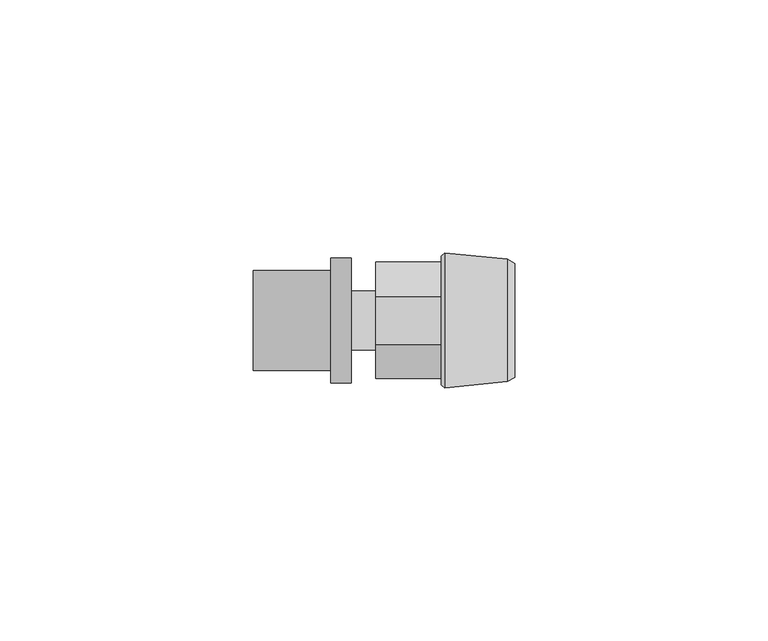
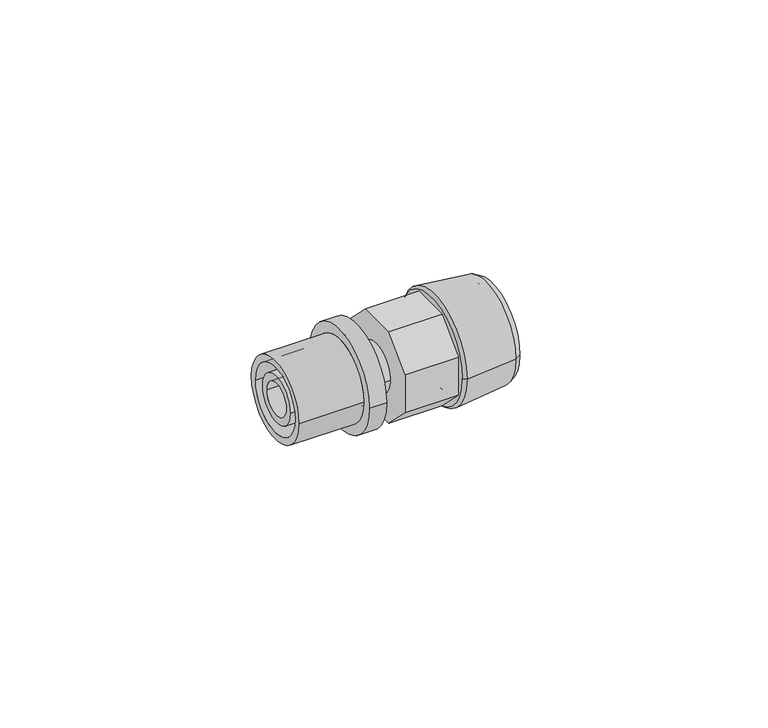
"""IFC4 building model written with IfcOpenShell, lengths in millimetres: pipe fitting geometry, FASTLOC_Adapter_RX+, with external thread : FSL A C external EX+ AT."""

from ifc_helpers import new_model, si_unit, frame, origin, place, context, project, spatial, polyline, circle_curve, outline, extrude, source, transform, mapped, element, save
from ifc_brep_helpers import plane_surface, cylinder_surface, revolved_surface, advanced_brep


def pipe_fitting_9284d0bf(model_context):
    return source(origin(), model_context, "Body", "SolidModel", [
        advanced_brep(
        [(-8.9, -12.35, 0.0), (-8.9, 12.35, 0.0), (-4.9, 12.35, 0.0), (-4.9, -12.35, 0.0), (-24.2, -9.85, 0.0), (-24.2, 9.85, 0.0), (-8.9, 9.85, 0.0), (-8.9, -9.85, 0.0), (-4.9, -8.15, 0.0), (-4.9, 8.15, 0.0), (-24.2, 8.15, 0.0), (-24.2, -8.15, 0.0)],
        [
            (0, 1, circle_curve(frame((-8.9, 0.0, 0.0), z_axis=(1.0, 0.0, 0.0), x_axis=(0.0, 1.0, 0.0)), 12.35)),
            (1, 2),
            (2, 3, circle_curve(frame((-4.9, 0.0, 0.0), z_axis=(-1.0, 0.0, 0.0), x_axis=(0.0, 1.0, 0.0)), 12.35)),
            (3, 0),
            (4, 5, circle_curve(frame((-24.2, 0.0, 0.0), z_axis=(1.0, 0.0, 0.0), x_axis=(0.0, 1.0, 0.0)), 9.85)),
            (5, 6),
            (6, 7, circle_curve(frame((-8.9, 0.0, 0.0), z_axis=(-1.0, 0.0, 0.0), x_axis=(0.0, 1.0, 0.0)), 9.85)),
            (7, 4),
            (8, 9, circle_curve(frame((-4.9, 0.0, 0.0), z_axis=(1.0, 0.0, 0.0), x_axis=(0.0, 1.0, 0.0)), 8.15)),
            (9, 10),
            (10, 11, circle_curve(frame((-24.2, 0.0, 0.0), z_axis=(-1.0, 0.0, 0.0), x_axis=(0.0, 1.0, 0.0)), 8.15)),
            (11, 8),
            (1, 0, circle_curve(frame((-8.9, 0.0, 0.0), z_axis=(1.0, 0.0, 0.0), x_axis=(0.0, -1.0, 0.0)), 12.35)),
            (3, 2, circle_curve(frame((-4.9, 0.0, 0.0), z_axis=(-1.0, 0.0, 0.0), x_axis=(0.0, -1.0, 0.0)), 12.35)),
            (6, 7, circle_curve(frame((-8.9, 0.0, 0.0), z_axis=(1.0, 0.0, 0.0), x_axis=(0.0, -1.0, 0.0)), 9.85)),
            (5, 4, circle_curve(frame((-24.2, 0.0, 0.0), z_axis=(1.0, 0.0, 0.0), x_axis=(0.0, -1.0, 0.0)), 9.85)),
            (10, 11, circle_curve(frame((-24.2, 0.0, 0.0), z_axis=(1.0, 0.0, 0.0), x_axis=(0.0, -1.0, 0.0)), 8.15)),
            (9, 8, circle_curve(frame((-4.9, 0.0, 0.0), z_axis=(1.0, 0.0, 0.0), x_axis=(0.0, -1.0, 0.0)), 8.15)),
        ],
        [
            cylinder_surface(frame((-4.9, 0.0, 0.0), z_axis=(-1.0, 0.0, 0.0), x_axis=(0.0, 1.0, 0.0)), 12.35),
            cylinder_surface(frame((-4.9, 0.0, 0.0), z_axis=(-1.0, 0.0, 0.0), x_axis=(0.0, 1.0, 0.0)), 9.85),
            revolved_surface(polyline([(-24.199999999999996, 8.15, 0.0), (-4.9, 8.15, 0.0)]), (-4.9, 0.0, 0.0), (-1.0, 0.0, 0.0)),
            cylinder_surface(frame((-4.9, 0.0, 0.0), z_axis=(-1.0, 0.0, 0.0), x_axis=(0.0, -1.0, 0.0)), 12.35),
            plane_surface(frame((-8.9, 0.0, 0.0), z_axis=(-1.0, 0.0, 0.0), x_axis=(0.0, -1.0, 0.0))),
            cylinder_surface(frame((-4.9, 0.0, 0.0), z_axis=(-1.0, 0.0, 0.0), x_axis=(0.0, -1.0, 0.0)), 9.85),
            plane_surface(frame((-24.2, 0.0, 0.0), z_axis=(-1.0, 0.0, 0.0), x_axis=(0.0, -1.0, 0.0))),
            revolved_surface(polyline([(-24.199999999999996, -8.15, 0.0), (-4.9, -8.15, 0.0)]), (-4.9, 0.0, 0.0), (-1.0, 0.0, 0.0)),
            plane_surface(frame((-4.9, 0.0, 0.0), z_axis=(1.0, 0.0, 0.0), x_axis=(0.0, -1.0, 0.0))),
        ],
        [
            (0, [[1, 2, 3, 4]]),
            (1, [[5, 6, 7, 8]]),
            (2, [[9, 10, 11, 12]]),
            (3, [[13, -4, 14, -2]]),
            (4, [[-13, -1], [15, -7]]),
            (5, [[16, -8, -15, -6]]),
            (6, [[-16, -5], [17, -11]]),
            (7, [[18, -12, -17, -10]]),
            (8, [[-14, -3], [-18, -9]]),
        ],
    ),
        advanced_brep(
        [(14.0032803, 9.5, 0.0), (14.0032803, -9.5, 0.0), (27.4, -9.5, 0.0), (27.4, 9.5, 0.0), (12.9, 8.3967197, 0.0), (12.9, -8.3967197, 0.0), (13.6406902, 13.3, 0.0), (13.6406902, -13.3, 0.0), (12.9, -12.7, 0.0), (12.9, 12.7, 0.0), (25.9000007, 12.1, 0.0), (25.9000007, -12.1, 0.0), (27.4, 11.25, 0.0), (27.4, -11.25, 0.0)],
        [
            (0, 1, circle_curve(frame((14.0032803, 0.0, 0.0), z_axis=(-1.0, 0.0, 0.0), x_axis=(0.0, -1.0, 0.0)), 9.5)),
            (1, 2),
            (2, 3, circle_curve(frame((27.4, 0.0, 0.0), z_axis=(1.0, 0.0, 0.0), x_axis=(0.0, -1.0, 0.0)), 9.5)),
            (3, 0),
            (4, 5, circle_curve(frame((12.9, 0.0, 0.0), z_axis=(-1.0, 0.0, 0.0), x_axis=(0.0, -1.0, 0.0)), 8.3967197)),
            (5, 1),
            (0, 4),
            (6, 7, circle_curve(frame((13.6406902, 0.0, 0.0), z_axis=(-1.0, 0.0, 0.0), x_axis=(0.0, -1.0, 0.0)), 13.3)),
            (7, 8),
            (8, 9, circle_curve(frame((12.9, 0.0, 0.0), z_axis=(1.0, 0.0, 0.0), x_axis=(0.0, -1.0, 0.0)), 12.7)),
            (9, 6),
            (10, 11, circle_curve(frame((25.9000007, 0.0, 0.0), z_axis=(-1.0, 0.0, 0.0), x_axis=(0.0, -1.0, 0.0)), 12.1)),
            (11, 7),
            (6, 10),
            (12, 13, circle_curve(frame((27.4, 0.0, 0.0), z_axis=(-1.0, 0.0, 0.0), x_axis=(0.0, -1.0, 0.0)), 11.25)),
            (13, 11),
            (10, 12),
            (1, 0, circle_curve(frame((14.0032803, 0.0, 0.0), z_axis=(-1.0, 0.0, 0.0), x_axis=(0.0, 1.0, 0.0)), 9.5)),
            (3, 2, circle_curve(frame((27.4, 0.0, 0.0), z_axis=(1.0, 0.0, 0.0), x_axis=(0.0, 1.0, 0.0)), 9.5)),
            (5, 4, circle_curve(frame((12.9, 0.0, 0.0), z_axis=(-1.0, 0.0, 0.0), x_axis=(0.0, 1.0, 0.0)), 8.3967197)),
            (8, 9, circle_curve(frame((12.9, 0.0, 0.0), z_axis=(-1.0, 0.0, 0.0), x_axis=(0.0, 1.0, 0.0)), 12.7)),
            (7, 6, circle_curve(frame((13.6406902, 0.0, 0.0), z_axis=(-1.0, 0.0, 0.0), x_axis=(0.0, 1.0, 0.0)), 13.3)),
            (11, 10, circle_curve(frame((25.9000007, 0.0, 0.0), z_axis=(-1.0, 0.0, 0.0), x_axis=(0.0, 1.0, 0.0)), 12.1)),
            (13, 12, circle_curve(frame((27.4, 0.0, 0.0), z_axis=(-1.0, 0.0, 0.0), x_axis=(0.0, 1.0, 0.0)), 11.25)),
        ],
        [
            revolved_surface(polyline([(27.4, -9.5, 0.0), (14.0032803, -9.5, 0.0)]), (0.0, 0.0, 0.0), (1.0, 0.0, 0.0)),
            revolved_surface(polyline([(14.0032803, -9.5, 0.0), (12.9, -8.3967197, 0.0)]), (0.0, 0.0, 0.0), (1.0, 0.0, 0.0)),
            revolved_surface(polyline([(12.9, -12.7, 0.0), (13.6406902, -13.3, 0.0)]), (0.0, 0.0, 0.0), (1.0, 0.0, 0.0)),
            revolved_surface(polyline([(13.6406902, -13.3, 0.0), (25.9000007, -12.1, 0.0)]), (0.0, 0.0, 0.0), (1.0, 0.0, 0.0)),
            revolved_surface(polyline([(25.9000007, -12.1, 0.0), (27.4, -11.25, 0.0)]), (0.0, 0.0, 0.0), (1.0, 0.0, 0.0)),
            revolved_surface(polyline([(27.4, 9.5, 0.0), (14.0032803, 9.5, 0.0)]), (0.0, 0.0, 0.0), (1.0, 0.0, 0.0)),
            revolved_surface(polyline([(14.0032803, 9.5, 0.0), (12.9, 8.3967197, 0.0)]), (0.0, 0.0, 0.0), (1.0, 0.0, 0.0)),
            plane_surface(frame((12.9, 0.0, 0.0), z_axis=(-1.0, 0.0, 0.0), x_axis=(0.0, 1.0, 0.0))),
            revolved_surface(polyline([(12.9, 12.7, 0.0), (13.6406902, 13.3, 0.0)]), (0.0, 0.0, 0.0), (1.0, 0.0, 0.0)),
            revolved_surface(polyline([(13.6406902, 13.3, 0.0), (25.9000007, 12.1, 0.0)]), (0.0, 0.0, 0.0), (1.0, 0.0, 0.0)),
            revolved_surface(polyline([(25.9000007, 12.1, 0.0), (27.4, 11.25, 0.0)]), (0.0, 0.0, 0.0), (1.0, 0.0, 0.0)),
            plane_surface(frame((27.4, 0.0, 0.0), z_axis=(1.0, 0.0, 0.0), x_axis=(0.0, 1.0, 0.0))),
        ],
        [
            (0, [[1, 2, 3, 4]]),
            (1, [[5, 6, -1, 7]]),
            (2, [[8, 9, 10, 11]]),
            (3, [[12, 13, -8, 14]]),
            (4, [[15, 16, -12, 17]]),
            (5, [[18, -4, 19, -2]]),
            (6, [[20, -7, -18, -6]]),
            (7, [[21, -10], [-20, -5]]),
            (8, [[22, -11, -21, -9]]),
            (9, [[23, -14, -22, -13]]),
            (10, [[24, -17, -23, -16]]),
            (11, [[-24, -15], [-19, -3]]),
        ],
    ),
        extrude(outline(polyline([(-11.5, 4.763456), (-4.763456, 11.5), (4.763456, 11.5), (11.5, 4.763456), (11.5, -4.763456), (4.763456, -11.5), (-4.763456, -11.5), (-11.5, -4.763456), (-11.5, 4.763456)])), frame((0.0, 0.0, 0.0), z_axis=(1.0, 0.0, 0.0), x_axis=(0.0, 1.0, 0.0)), (0.0, 0.0, 1.0), 12.9),
        advanced_brep(
        [(-23.9, 3.95, 0.0), (-23.9, -3.95, 0.0), (0.0, -3.95, 0.0), (0.0, 3.95, 0.0), (0.0, 5.8, 0.0), (0.0, -5.8, 0.0), (-6.2, -5.8, 0.0), (-6.2, 5.8, 0.0), (-6.2, 6.9, 0.0), (-6.2, -6.9, 0.0), (-8.9, -6.9, 0.0), (-8.9, 6.9, 0.0), (-8.9, 5.8, 0.0), (-8.9, -5.8, 0.0), (-23.9, -5.8, 0.0), (-23.9, 5.8, 0.0)],
        [
            (0, 1, circle_curve(frame((-23.9, 0.0, 0.0), z_axis=(-1.0, 0.0, 0.0), x_axis=(0.0, -1.0, 0.0)), 3.95)),
            (1, 2),
            (2, 3, circle_curve(frame((0.0, 0.0, 0.0), z_axis=(1.0, 0.0, 0.0), x_axis=(0.0, -1.0, 0.0)), 3.95)),
            (3, 0),
            (4, 5, circle_curve(frame((0.0, 0.0, 0.0), z_axis=(-1.0, 0.0, 0.0), x_axis=(0.0, -1.0, 0.0)), 5.8)),
            (5, 6),
            (6, 7, circle_curve(frame((-6.2, 0.0, 0.0), z_axis=(1.0, 0.0, 0.0), x_axis=(0.0, -1.0, 0.0)), 5.8)),
            (7, 4),
            (8, 9, circle_curve(frame((-6.2, 0.0, 0.0), z_axis=(-1.0, 0.0, 0.0), x_axis=(0.0, -1.0, 0.0)), 6.9)),
            (9, 10),
            (10, 11, circle_curve(frame((-8.9, 0.0, 0.0), z_axis=(1.0, 0.0, 0.0), x_axis=(0.0, -1.0, 0.0)), 6.9)),
            (11, 8),
            (12, 13, circle_curve(frame((-8.9, 0.0, 0.0), z_axis=(-1.0, 0.0, 0.0), x_axis=(0.0, -1.0, 0.0)), 5.8)),
            (13, 14),
            (14, 15, circle_curve(frame((-23.9, 0.0, 0.0), z_axis=(1.0, 0.0, 0.0), x_axis=(0.0, -1.0, 0.0)), 5.8)),
            (15, 12),
            (1, 0, circle_curve(frame((-23.9, 0.0, 0.0), z_axis=(-1.0, 0.0, 0.0), x_axis=(0.0, 1.0, 0.0)), 3.95)),
            (3, 2, circle_curve(frame((0.0, 0.0, 0.0), z_axis=(1.0, 0.0, 0.0), x_axis=(0.0, 1.0, 0.0)), 3.95)),
            (4, 5, circle_curve(frame((0.0, 0.0, 0.0), z_axis=(1.0, 0.0, 0.0), x_axis=(0.0, 1.0, 0.0)), 5.8)),
            (7, 6, circle_curve(frame((-6.2, 0.0, 0.0), z_axis=(1.0, 0.0, 0.0), x_axis=(0.0, 1.0, 0.0)), 5.8)),
            (8, 9, circle_curve(frame((-6.2, 0.0, 0.0), z_axis=(1.0, 0.0, 0.0), x_axis=(0.0, 1.0, 0.0)), 6.9)),
            (11, 10, circle_curve(frame((-8.9, 0.0, 0.0), z_axis=(1.0, 0.0, 0.0), x_axis=(0.0, 1.0, 0.0)), 6.9)),
            (12, 13, circle_curve(frame((-8.9, 0.0, 0.0), z_axis=(1.0, 0.0, 0.0), x_axis=(0.0, 1.0, 0.0)), 5.8)),
            (15, 14, circle_curve(frame((-23.9, 0.0, 0.0), z_axis=(1.0, 0.0, 0.0), x_axis=(0.0, 1.0, 0.0)), 5.8)),
        ],
        [
            revolved_surface(polyline([(0.0, -3.95, 0.0), (-23.9, -3.95, 0.0)]), (0.0, 0.0, 0.0), (1.0, 0.0, 0.0)),
            cylinder_surface(frame((0.0, 0.0, 0.0), z_axis=(1.0, 0.0, 0.0), x_axis=(0.0, -1.0, 0.0)), 5.8),
            cylinder_surface(frame((0.0, 0.0, 0.0), z_axis=(1.0, 0.0, 0.0), x_axis=(0.0, -1.0, 0.0)), 6.9),
            revolved_surface(polyline([(0.0, 3.95, 0.0), (-23.9, 3.95, 0.0)]), (0.0, 0.0, 0.0), (1.0, 0.0, 0.0)),
            plane_surface(frame((0.0, 0.0, 0.0), z_axis=(1.0, 0.0, 0.0), x_axis=(0.0, 1.0, 0.0))),
            cylinder_surface(frame((0.0, 0.0, 0.0), z_axis=(1.0, 0.0, 0.0), x_axis=(0.0, 1.0, 0.0)), 5.8),
            plane_surface(frame((-6.2, 0.0, 0.0), z_axis=(1.0, 0.0, 0.0), x_axis=(0.0, 1.0, 0.0))),
            cylinder_surface(frame((0.0, 0.0, 0.0), z_axis=(1.0, 0.0, 0.0), x_axis=(0.0, 1.0, 0.0)), 6.9),
            plane_surface(frame((-8.9, 0.0, 0.0), z_axis=(-1.0, 0.0, 0.0), x_axis=(0.0, 1.0, 0.0))),
            plane_surface(frame((-23.9, 0.0, 0.0), z_axis=(-1.0, 0.0, 0.0), x_axis=(0.0, 1.0, 0.0))),
        ],
        [
            (0, [[1, 2, 3, 4]]),
            (1, [[5, 6, 7, 8]]),
            (2, [[9, 10, 11, 12]]),
            (1, [[13, 14, 15, 16]]),
            (3, [[17, -4, 18, -2]]),
            (4, [[19, -5], [-18, -3]]),
            (5, [[-19, -8, 20, -6]]),
            (6, [[21, -9], [-20, -7]]),
            (7, [[-21, -12, 22, -10]]),
            (8, [[-22, -11], [23, -13]]),
            (5, [[-23, -16, 24, -14]]),
            (9, [[-24, -15], [-17, -1]]),
        ],
    ),
    ])


if __name__ == "__main__":
    model = new_model("IFC4")
    model_context = context("Model", 3, world=origin())
    ifc_project = project(units=[si_unit("LENGTHUNIT", "METRE", prefix="MILLI")], contexts=[model_context])
    site = spatial("IfcSite", under=ifc_project)
    building = spatial("IfcBuilding", under=site)
    placement = place(None, origin())
    pipe_fitting_shape = pipe_fitting_9284d0bf(model_context)
    element("IfcPipeFitting", 1, ObjectType="FASTLOC_Adapter_RX+, with external thread : FSL A C external EX+ AT", at=placement, inside=building, context=model_context, shape_type="MappedRepresentation", body=[
        mapped(pipe_fitting_shape, transform((0.0, 0.0, 0.0), x_axis=(1.0, 0.0, 0.0), y_axis=(0.0, 1.0, 0.0), z_axis=(0.0, 0.0, 1.0))),
    ])
    save(model, "model.ifc")
